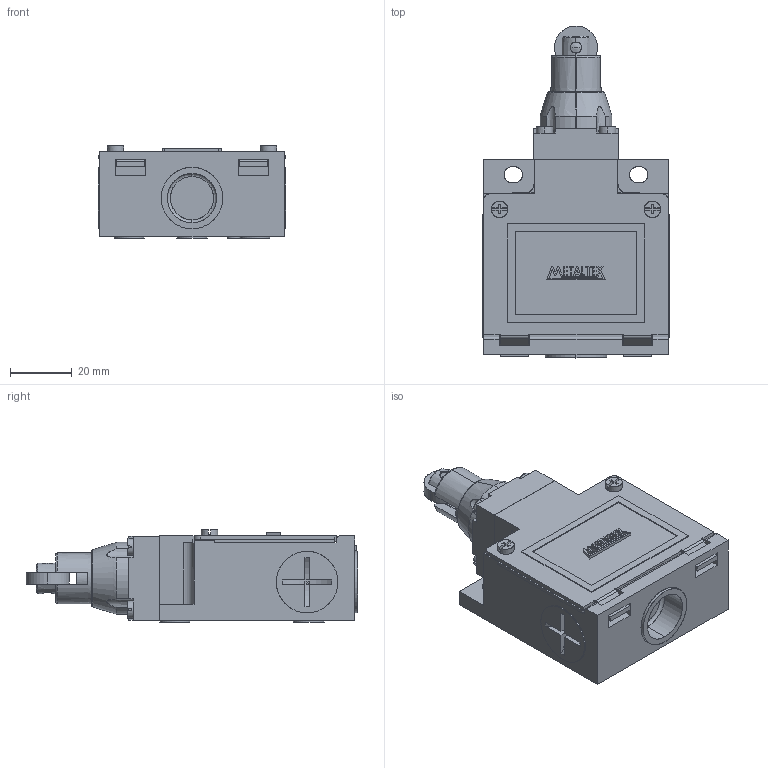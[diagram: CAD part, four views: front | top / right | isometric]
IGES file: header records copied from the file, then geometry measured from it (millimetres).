
Start section: SolidWorks IGES file using analytic representation for surfaces
Global section: file name: D:\X - Arquivos\PROEX\Empresas\P11 - METALTEX\01 - Produtos\IGES\Terceira remessa\TZE02.IGS; native system: SolidWorks 2012; preprocessor: SolidWorks 2012; author: Usuario; date: 180207.113842; units: millimetre
Bounding box: 61 x 107.8 x 30 mm (x, y, z)
Surface area: 21004.3 mm2 (no closed solid volume)
Topology: 0 solids, 0 shells, 435 faces, 3921 edges, 3918 vertices
Faces by surface type: bspline 341, revolution 94
